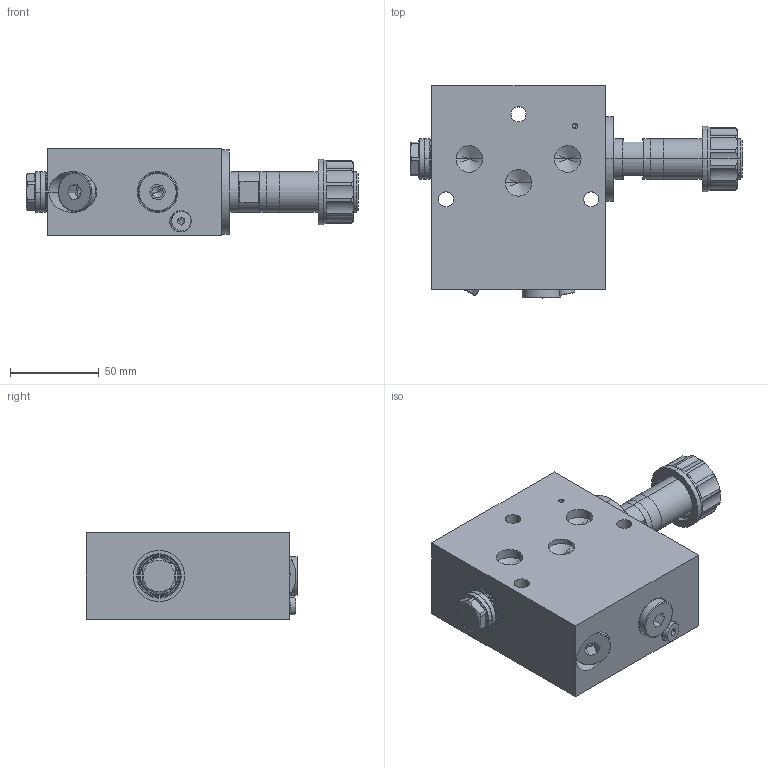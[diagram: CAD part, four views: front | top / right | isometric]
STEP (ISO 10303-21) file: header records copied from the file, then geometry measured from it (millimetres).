
FILE_DESCRIPTION (( 'STEP AP214' ), '1' );
FILE_NAME ('Control Section CMVA-MC06-A actuation at B.STEP', '2025-11-17T12:51:02', ( '' ), ( '' ), 'SwSTEP 2.0', 'SolidWorks 2024', '' );
FILE_SCHEMA (( 'AUTOMOTIVE_DESIGN' ));
Length unit declared in the file: millimetre
Products named in the file (1): Control Section CMVA-MC06-A actuation at B
Bounding box: 187.55 x 119.7 x 49 mm (x, y, z)
Volume: 539689.7 mm3; surface area: 94028.6 mm2
Topology: 23 solids, 23 shells, 1334 faces, 3217 edges, 1976 vertices
Faces by surface type: plane 629, cylinder 311, cone 233, bspline 93, torus 68
Entity records: 42087 total; most frequent: CARTESIAN_POINT 10917, DIRECTION 6540, ORIENTED_EDGE 6330, EDGE_CURVE 3165, AXIS2_PLACEMENT_3D 2383, VERTEX_POINT 1976, VECTOR 1774, LINE 1774
